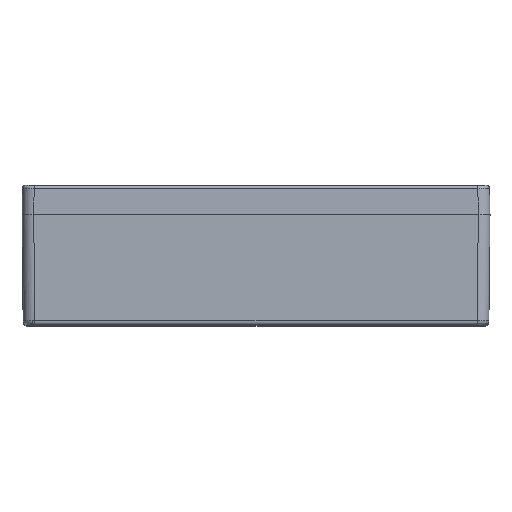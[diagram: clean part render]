
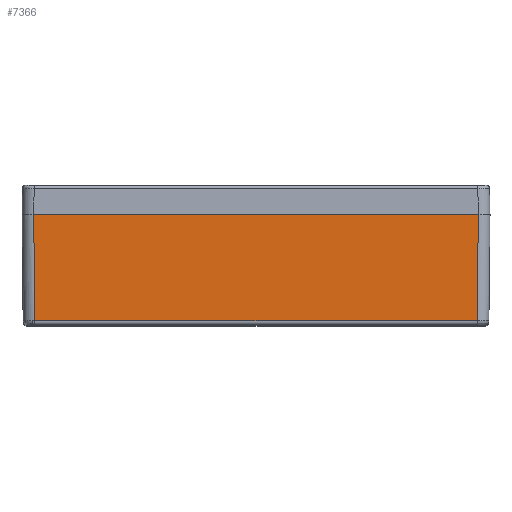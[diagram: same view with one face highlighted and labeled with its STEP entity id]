
A CAD part, top view. The second image highlights one B-rep face of the part: STEP entity #7366.
In plain terms, the highlighted planar face has unit normal (0, -0.011, 1).
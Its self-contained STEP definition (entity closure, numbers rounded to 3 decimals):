
#714=CARTESIAN_POINT('',(190.001,0.,202.5));
#727=DIRECTION('',(-1.,0.,0.));
#728=VECTOR('',#727,380.001);
#729=CARTESIAN_POINT('',(190.001,0.,202.5));
#730=LINE('',#729,#728);
#742=CARTESIAN_POINT('',(-190.001,0.,202.5));
#3131=CARTESIAN_POINT('',(189.042,-91.042,201.542));
#3136=DIRECTION('',(-1.,0.,0.));
#3137=VECTOR('',#3136,378.084);
#3138=CARTESIAN_POINT('',(189.042,-91.042,201.542));
#3139=LINE('',#3138,#3137);
#3143=DIRECTION('',(-0.011,1.,0.011));
#3144=VECTOR('',#3143,91.052);
#3145=CARTESIAN_POINT('',(-189.042,-91.042,
201.542));
#3146=LINE('',#3145,#3144);
#3150=DIRECTION('',(0.011,1.,0.011));
#3151=VECTOR('',#3150,91.052);
#3152=CARTESIAN_POINT('',(189.042,-91.042,201.542));
#3153=LINE('',#3152,#3151);
#3860=VERTEX_POINT('',#714);
#3863=VERTEX_POINT('',#742);
#3877=VERTEX_POINT('',#3131);
#3880=CARTESIAN_POINT('',(-189.042,-91.042,
201.542));
#3881=VERTEX_POINT('',#3880);
#7354=CARTESIAN_POINT('',(0.,-47.5,202.));
#7355=DIRECTION('',(0.,-0.011,1.));
#7356=DIRECTION('',(1.,0.,0.));
#7357=AXIS2_PLACEMENT_3D('',#7354,#7355,#7356);
#7358=PLANE('',#7357);
#7359=ORIENTED_EDGE('',*,*,#7061,.T.);
#7361=ORIENTED_EDGE('',*,*,#7360,.T.);
#7362=ORIENTED_EDGE('',*,*,#4347,.F.);
#7363=ORIENTED_EDGE('',*,*,#7347,.F.);
#7364=EDGE_LOOP('',(#7359,#7361,#7362,#7363));
#7365=FACE_OUTER_BOUND('',#7364,.F.);
#4347=EDGE_CURVE('',#3860,#3863,#730,.T.);
#7061=EDGE_CURVE('',#3877,#3881,#3139,.T.);
#7347=EDGE_CURVE('',#3877,#3860,#3153,.T.);
#7360=EDGE_CURVE('',#3881,#3863,#3146,.T.);
#7366=ADVANCED_FACE('',(#7365),#7358,.T.);
